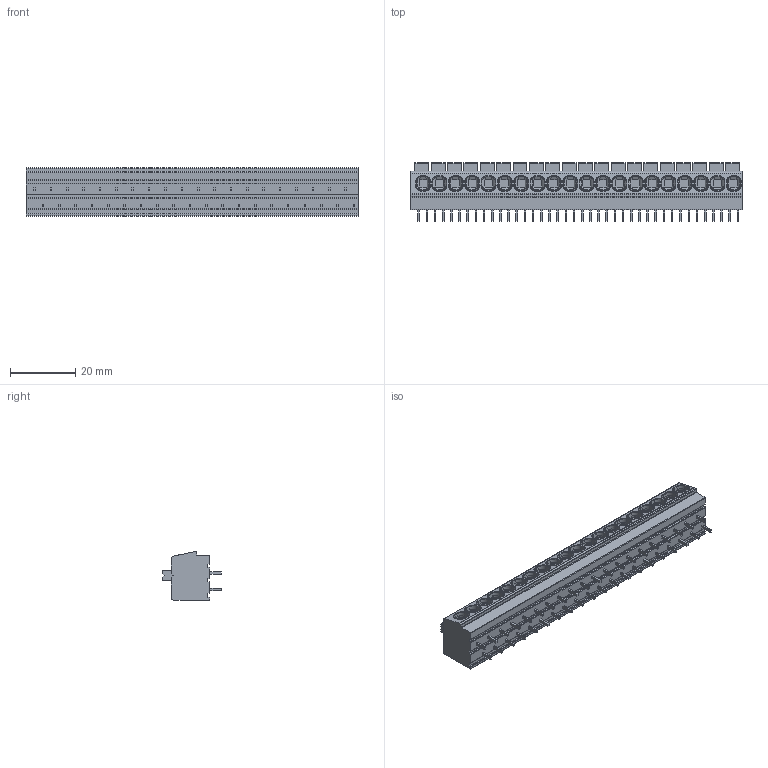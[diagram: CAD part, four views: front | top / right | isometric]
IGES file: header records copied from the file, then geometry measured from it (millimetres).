
Start section:  PTC IGES file: c-2-1986711-0-c-3d.igs
Global section: file name: c-2-1986711-0-c-3d.igs; native system: Creo Parametric by PTC Inc.; preprocessor: 2019030; author: workeradm; organization: Unknown; units: millimetre
Bounding box: 101.5 x 17.95 x 14.8 mm (x, y, z)
Surface area: 7882.7 mm2 (no closed solid volume)
Topology: 0 solids, 0 shells, 1640 faces, 8212 edges, 8212 vertices
Faces by surface type: bspline 1264, revolution 376
